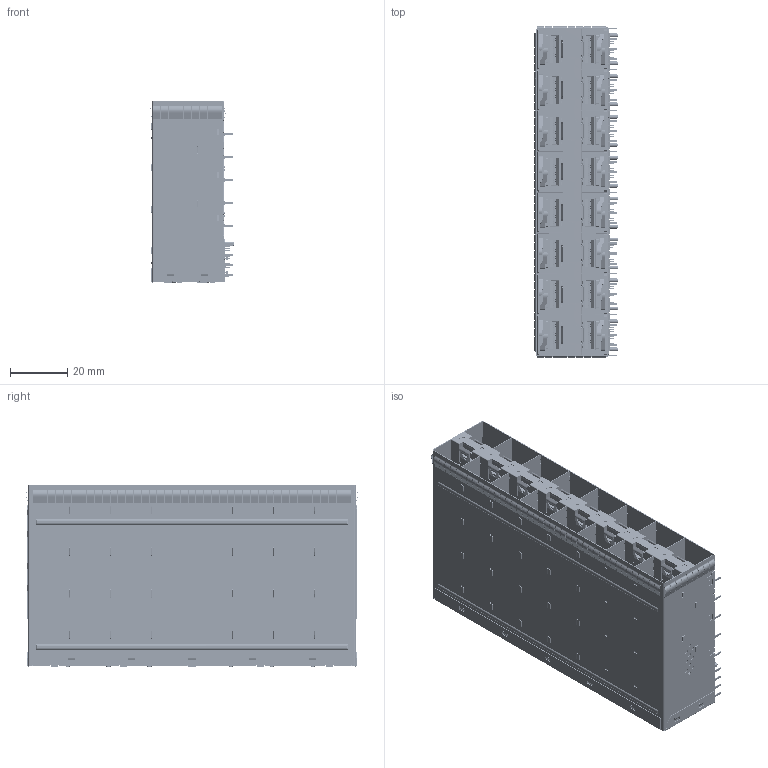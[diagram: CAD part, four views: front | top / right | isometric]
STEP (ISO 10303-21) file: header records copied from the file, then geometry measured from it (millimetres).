
FILE_DESCRIPTION((''),'2;1');
FILE_NAME('SFP28_2X8-3D-OUTER-LP-10732328F','2025-02-27T',('czt12321'),(''),'CREO PARAMETRIC BY PTC INC, 2017480','CREO PARAMETRIC BY PTC INC, 2017480','');
FILE_SCHEMA(('CONFIG_CONTROL_DESIGN'));
Products named in the file (1): SFP28_2X8-3D-OUTER-LP-10732328F
Bounding box: 29.28 x 115.81 x 63.35 mm (x, y, z)
Volume: 87972.7 mm3; surface area: 95916.3 mm2
Topology: 1 solids, 27 shells, 20091 faces, 61524 edges, 41339 vertices
Faces by surface type: plane 12212, cylinder 7509, bspline 338, cone 32
Entity records: 710297 total; most frequent: CARTESIAN_POINT 147999, ORIENTED_EDGE 123032, DIRECTION 114253, EDGE_CURVE 61516, VERTEX_POINT 41339, VECTOR 41155, LINE 41155, AXIS2_PLACEMENT_3D 36549
